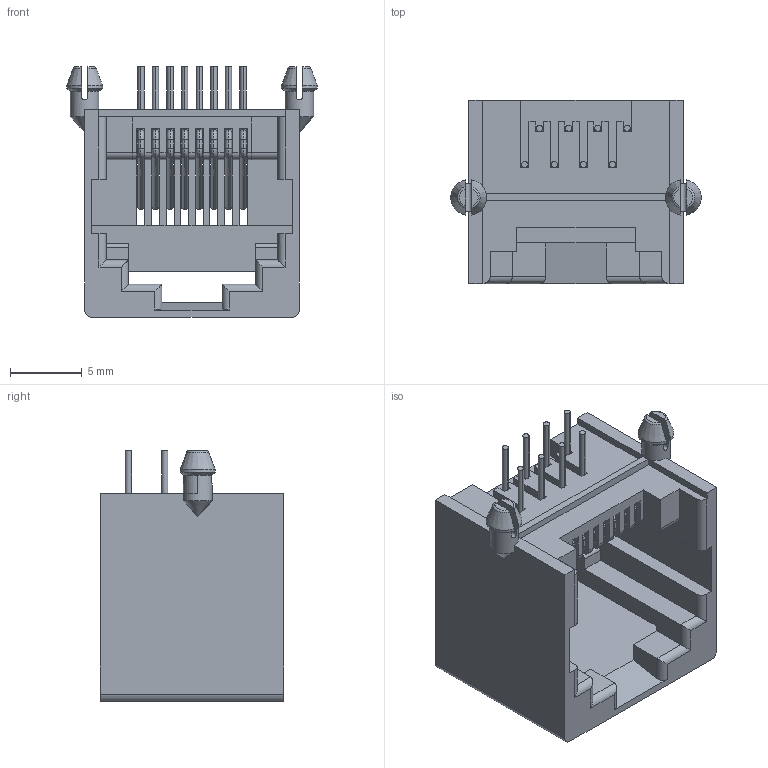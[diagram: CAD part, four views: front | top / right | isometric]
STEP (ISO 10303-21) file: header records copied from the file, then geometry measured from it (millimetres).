
FILE_DESCRIPTION((''),'2;1');
FILE_NAME('DGKYD55211188IWA1DY4017_ASM_ASM','2022-04-22T16:19:24',('Administrator'),(''),'CREO PARAMETRIC BY PTC INC, 2018400','CREO PARAMETRIC BY PTC INC, 2018400','');
FILE_SCHEMA(('CONFIG_CONTROL_DESIGN'));
Length unit declared in the file: millimetre
Products named in the file (1): DGKYD55211188IWA1DY4017_ASM_ASM
Bounding box: 17.5 x 12.8 x 17.5 mm (x, y, z)
Volume: 1004.5 mm3; surface area: 2459.3 mm2
Topology: 9 solids, 9 shells, 393 faces, 1041 edges, 641 vertices
Faces by surface type: plane 206, cylinder 125, torus 52, cone 10
Entity records: 12244 total; most frequent: CARTESIAN_POINT 2289, DIRECTION 2108, ORIENTED_EDGE 2078, EDGE_CURVE 1039, AXIS2_PLACEMENT_3D 714, VECTOR 680, LINE 680, VERTEX_POINT 641
